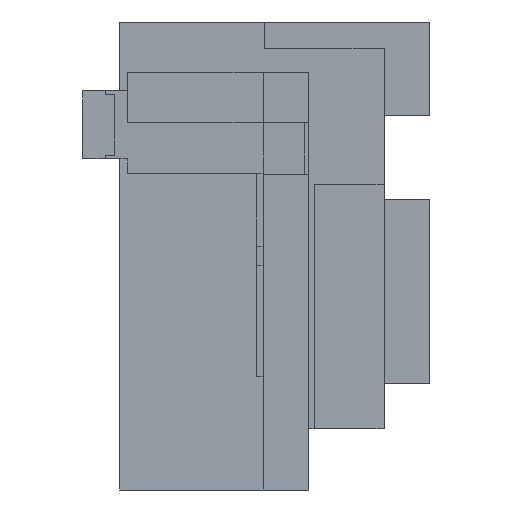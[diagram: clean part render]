
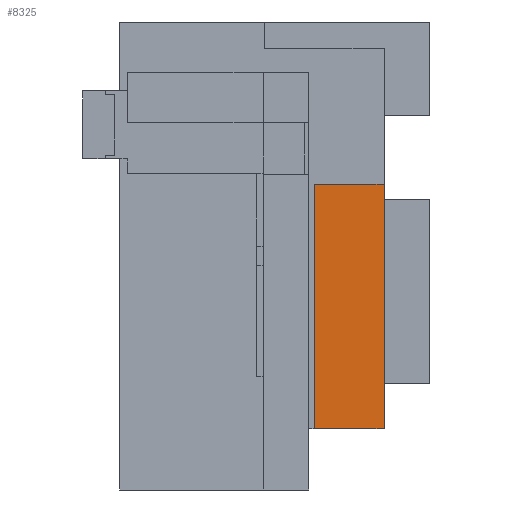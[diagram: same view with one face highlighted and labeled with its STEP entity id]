
A CAD part, left-side view. The second image highlights one B-rep face of the part: STEP entity #8325.
In plain terms, the highlighted planar face has unit normal (-1, 0, 0).
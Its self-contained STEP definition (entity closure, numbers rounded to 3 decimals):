
#1573 = PLANE('',#1574);
#1574 = AXIS2_PLACEMENT_3D('',#1575,#1576,#1577);
#1575 = CARTESIAN_POINT('',(91.,98.29,175.3));
#1576 = DIRECTION('',(0.,0.,1.));
#1577 = DIRECTION('',(1.,0.,-0.));
#1936 = PLANE('',#1937);
#1937 = AXIS2_PLACEMENT_3D('',#1938,#1939,#1940);
#1938 = CARTESIAN_POINT('',(91.,98.29,175.3));
#1939 = DIRECTION('',(-0.,1.,0.));
#1940 = DIRECTION('',(0.,0.,1.));
#1963 = PLANE('',#1964);
#1964 = AXIS2_PLACEMENT_3D('',#1965,#1966,#1967);
#1965 = CARTESIAN_POINT('',(90.9,98.19,207.674));
#1966 = DIRECTION('',(0.,0.,1.));
#1967 = DIRECTION('',(1.,0.,-0.));
#1989 = PLANE('',#1990);
#1990 = AXIS2_PLACEMENT_3D('',#1991,#1992,#1993);
#1991 = CARTESIAN_POINT('',(90.9,107.54,175.2));
#1992 = DIRECTION('',(-0.,1.,0.));
#1993 = DIRECTION('',(0.,0.,1.));
#5283 = VERTEX_POINT('',#5284);
#5284 = CARTESIAN_POINT('',(93.85,107.54,175.3));
#5303 = EDGE_CURVE('',#5304,#5283,#5306,.T.);
#5304 = VERTEX_POINT('',#5305);
#5305 = CARTESIAN_POINT('',(93.85,98.29,175.3));
#5306 = SURFACE_CURVE('',#5307,(#5311,#5317),.PCURVE_S1.);
#5307 = LINE('',#5308,#5309);
#5308 = CARTESIAN_POINT('',(93.85,98.24,175.3));
#5309 = VECTOR('',#5310,1.);
#5310 = DIRECTION('',(-0.,1.,0.));
#5311 = PCURVE('',#1573,#5312);
#5312 = DEFINITIONAL_REPRESENTATION('',(#5313),#5316);
#5313 = B_SPLINE_CURVE_WITH_KNOTS('',1,(#5314,#5315),.UNSPECIFIED.,.F.,
  .F.,(2,2),(0.05,9.3),.PIECEWISE_BEZIER_KNOTS.);
#5314 = CARTESIAN_POINT('',(2.85,0.));
#5315 = CARTESIAN_POINT('',(2.85,9.25));
#5316 = ( GEOMETRIC_REPRESENTATION_CONTEXT(2) 
PARAMETRIC_REPRESENTATION_CONTEXT() REPRESENTATION_CONTEXT('2D SPACE',''
  ) );
#5317 = PCURVE('',#5318,#5323);
#5318 = PLANE('',#5319);
#5319 = AXIS2_PLACEMENT_3D('',#5320,#5321,#5322);
#5320 = CARTESIAN_POINT('',(93.85,98.19,175.2));
#5321 = DIRECTION('',(1.,0.,-0.));
#5322 = DIRECTION('',(0.,0.,1.));
#5323 = DEFINITIONAL_REPRESENTATION('',(#5324),#5327);
#5324 = B_SPLINE_CURVE_WITH_KNOTS('',1,(#5325,#5326),.UNSPECIFIED.,.F.,
  .F.,(2,2),(0.05,9.3),.PIECEWISE_BEZIER_KNOTS.);
#5325 = CARTESIAN_POINT('',(0.1,-0.1));
#5326 = CARTESIAN_POINT('',(0.1,-9.35));
#5327 = ( GEOMETRIC_REPRESENTATION_CONTEXT(2) 
PARAMETRIC_REPRESENTATION_CONTEXT() REPRESENTATION_CONTEXT('2D SPACE',''
  ) );
#6019 = EDGE_CURVE('',#5283,#6020,#6022,.T.);
#6020 = VERTEX_POINT('',#6021);
#6021 = CARTESIAN_POINT('',(93.85,107.54,207.674));
#6022 = SURFACE_CURVE('',#6023,(#6027,#6034),.PCURVE_S1.);
#6023 = LINE('',#6024,#6025);
#6024 = CARTESIAN_POINT('',(93.85,107.54,175.2));
#6025 = VECTOR('',#6026,1.);
#6026 = DIRECTION('',(0.,0.,1.));
#6027 = PCURVE('',#1989,#6028);
#6028 = DEFINITIONAL_REPRESENTATION('',(#6029),#6033);
#6029 = LINE('',#6030,#6031);
#6030 = CARTESIAN_POINT('',(0.,2.95));
#6031 = VECTOR('',#6032,1.);
#6032 = DIRECTION('',(1.,0.));
#6033 = ( GEOMETRIC_REPRESENTATION_CONTEXT(2) 
PARAMETRIC_REPRESENTATION_CONTEXT() REPRESENTATION_CONTEXT('2D SPACE',''
  ) );
#6034 = PCURVE('',#5318,#6035);
#6035 = DEFINITIONAL_REPRESENTATION('',(#6036),#6040);
#6036 = LINE('',#6037,#6038);
#6037 = CARTESIAN_POINT('',(0.,-9.35));
#6038 = VECTOR('',#6039,1.);
#6039 = DIRECTION('',(1.,0.));
#6040 = ( GEOMETRIC_REPRESENTATION_CONTEXT(2) 
PARAMETRIC_REPRESENTATION_CONTEXT() REPRESENTATION_CONTEXT('2D SPACE',''
  ) );
#6071 = VERTEX_POINT('',#6072);
#6072 = CARTESIAN_POINT('',(93.85,98.29,207.674));
#6091 = EDGE_CURVE('',#6071,#6020,#6092,.T.);
#6092 = SURFACE_CURVE('',#6093,(#6097,#6104),.PCURVE_S1.);
#6093 = LINE('',#6094,#6095);
#6094 = CARTESIAN_POINT('',(93.85,98.19,207.674));
#6095 = VECTOR('',#6096,1.);
#6096 = DIRECTION('',(-0.,1.,0.));
#6097 = PCURVE('',#1963,#6098);
#6098 = DEFINITIONAL_REPRESENTATION('',(#6099),#6103);
#6099 = LINE('',#6100,#6101);
#6100 = CARTESIAN_POINT('',(2.95,0.));
#6101 = VECTOR('',#6102,1.);
#6102 = DIRECTION('',(0.,1.));
#6103 = ( GEOMETRIC_REPRESENTATION_CONTEXT(2) 
PARAMETRIC_REPRESENTATION_CONTEXT() REPRESENTATION_CONTEXT('2D SPACE',''
  ) );
#6104 = PCURVE('',#5318,#6105);
#6105 = DEFINITIONAL_REPRESENTATION('',(#6106),#6110);
#6106 = LINE('',#6107,#6108);
#6107 = CARTESIAN_POINT('',(32.474,0.));
#6108 = VECTOR('',#6109,1.);
#6109 = DIRECTION('',(0.,-1.));
#6110 = ( GEOMETRIC_REPRESENTATION_CONTEXT(2) 
PARAMETRIC_REPRESENTATION_CONTEXT() REPRESENTATION_CONTEXT('2D SPACE',''
  ) );
#6139 = EDGE_CURVE('',#6071,#5304,#6140,.T.);
#6140 = SURFACE_CURVE('',#6141,(#6145,#6151),.PCURVE_S1.);
#6141 = LINE('',#6142,#6143);
#6142 = CARTESIAN_POINT('',(93.85,98.29,175.25));
#6143 = VECTOR('',#6144,1.);
#6144 = DIRECTION('',(-0.,0.,-1.));
#6145 = PCURVE('',#1936,#6146);
#6146 = DEFINITIONAL_REPRESENTATION('',(#6147),#6150);
#6147 = B_SPLINE_CURVE_WITH_KNOTS('',1,(#6148,#6149),.UNSPECIFIED.,.F.,
  .F.,(2,2),(-32.424,-0.05),.PIECEWISE_BEZIER_KNOTS.);
#6148 = CARTESIAN_POINT('',(32.374,2.85));
#6149 = CARTESIAN_POINT('',(0.,2.85));
#6150 = ( GEOMETRIC_REPRESENTATION_CONTEXT(2) 
PARAMETRIC_REPRESENTATION_CONTEXT() REPRESENTATION_CONTEXT('2D SPACE',''
  ) );
#6151 = PCURVE('',#5318,#6152);
#6152 = DEFINITIONAL_REPRESENTATION('',(#6153),#6156);
#6153 = B_SPLINE_CURVE_WITH_KNOTS('',1,(#6154,#6155),.UNSPECIFIED.,.F.,
  .F.,(2,2),(-32.424,-0.05),.PIECEWISE_BEZIER_KNOTS.);
#6154 = CARTESIAN_POINT('',(32.474,-0.1));
#6155 = CARTESIAN_POINT('',(0.1,-0.1));
#6156 = ( GEOMETRIC_REPRESENTATION_CONTEXT(2) 
PARAMETRIC_REPRESENTATION_CONTEXT() REPRESENTATION_CONTEXT('2D SPACE',''
  ) );
#8325 = ADVANCED_FACE('',(#8326),#5318,.F.);
#8326 = FACE_BOUND('',#8327,.F.);
#8327 = EDGE_LOOP('',(#8328,#8329,#8330,#8331));
#8328 = ORIENTED_EDGE('',*,*,#6091,.F.);
#8329 = ORIENTED_EDGE('',*,*,#6139,.T.);
#8330 = ORIENTED_EDGE('',*,*,#5303,.T.);
#8331 = ORIENTED_EDGE('',*,*,#6019,.T.);
